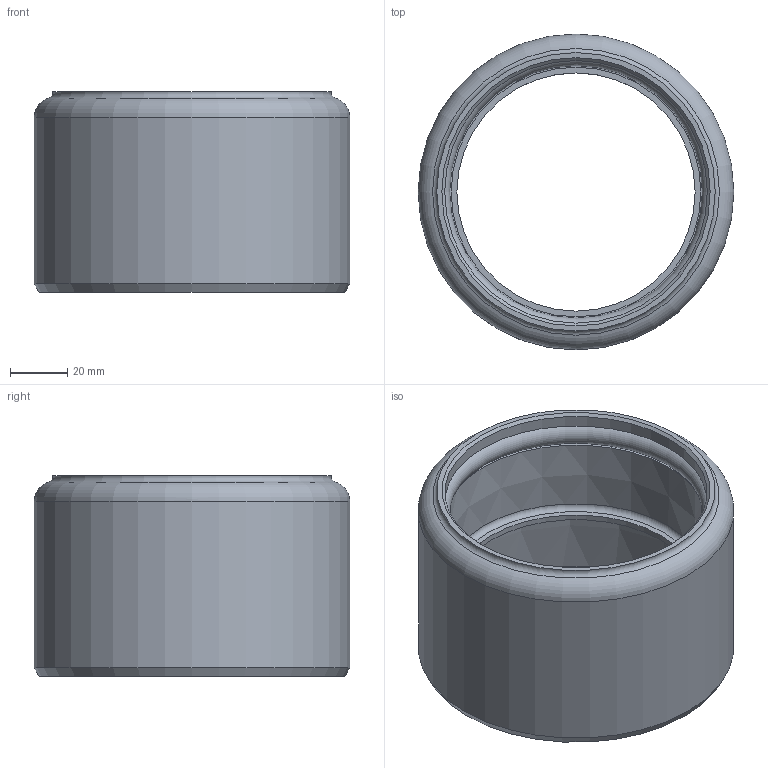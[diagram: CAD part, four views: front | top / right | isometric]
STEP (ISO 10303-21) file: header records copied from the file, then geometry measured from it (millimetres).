
FILE_DESCRIPTION( ( 'STEP AP214' ), '1' );
FILE_NAME( 'C:/Users/ilukic/Documents/ex/paket6/waste_fitting/fur_wcs_und_wandausgusse/zubehor/adapter PVC d90_110/152465.stp', '2021-08-02T09:44:41', ( 'License CC BY-ND 4.0' ), ( 'CADENAS' ), ' ', 'PARTsolutions', ' ' );
FILE_SCHEMA( ( 'AUTOMOTIVE_DESIGN { 1 0 10303 214 1 1 1 1 }' ) );
Length unit declared in the file: millimetre
Products named in the file (1): _152465
Bounding box: 110 x 110 x 70 mm (x, y, z)
Volume: 99435.8 mm3; surface area: 76553.4 mm2
Topology: 1 solids, 1 shells, 24 faces, 42 edges, 25 vertices
Faces by surface type: torus 9, plane 7, cone 5, cylinder 3
Full cylindrical faces by diameter (mm): 83 x1, 91.5 x1, 110 x1
Entity records: 696 total; most frequent: DIRECTION 98, CARTESIAN_POINT 73, AXIS2_PLACEMENT_3D 49, EDGE_LOOP 48, ORIENTED_EDGE 48, FACE_OUTER_BOUND 36, STYLED_ITEM 24, PRESENTATION_STYLE_ASSIGNMENT 24
